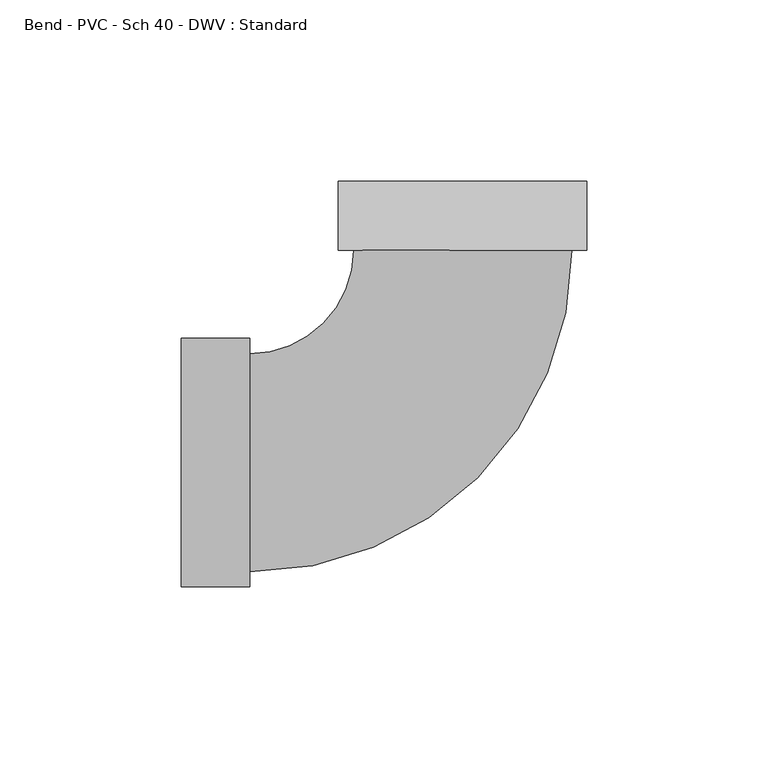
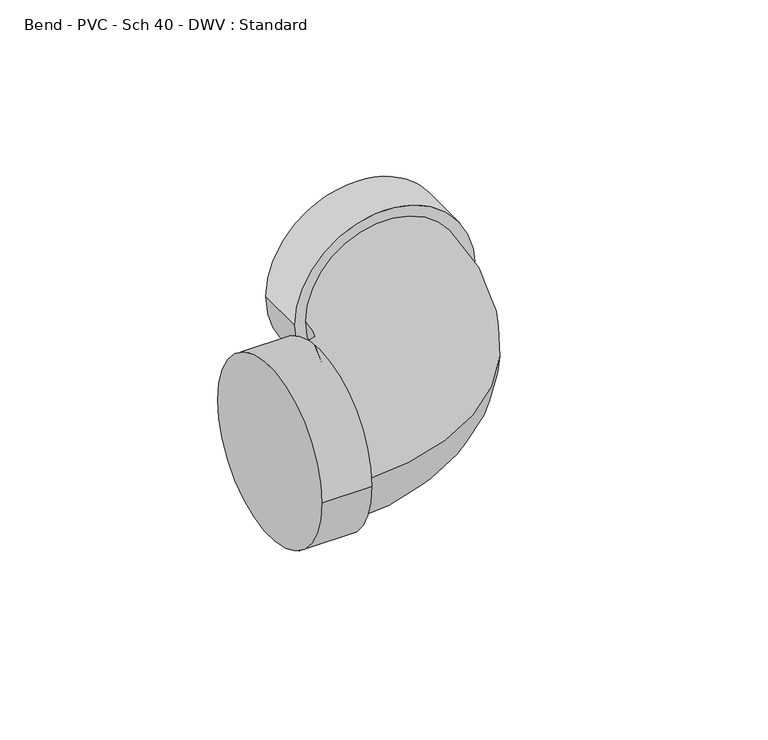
"""IFC4 building model written with IfcOpenShell, lengths in millimetres: pipe fitting geometry, Bend - PVC - Sch 40 - DWV : Standard."""

from ifc_helpers import new_model, si_unit, point, frame, origin, place, context, project, spatial, circle_curve, ellipse_curve, trimmed, source, transform, mapped, element, save
from ifc_brep_helpers import plane_surface, cylinder_surface, revolved_surface, advanced_brep


def bend_pvc_sch_40_dwv_standard_2067a29d(model_context):
    return source(origin(), model_context, "Body", "AdvancedBrep", [
        advanced_brep(
        [(-77.8002, -34.3154, 0.0), (-77.8002, 34.3154, 0.0), (-58.7502, -34.3154, 0.0), (-58.7502, 34.3154, 0.0), (-58.7502, -30.1625, 0.0), (-58.7502, 30.1625, 0.0), (-30.1561257, 58.7534721, 0.0), (30.1688739, 58.7469272, 0.0), (34.3217739, 58.7464766, 0.0), (-34.3090257, 58.7539227, 0.0), (34.3238407, 77.7964765, 0.0), (-34.3069589, 77.8039226, 0.0)],
        [
            (0, 1, circle_curve(frame((-77.8002, 0.0, 0.0), z_axis=(-1.0, 0.0, 0.0), x_axis=(0.0, 1.0, 0.0)), 34.3154)),
            (1, 0, circle_curve(frame((-77.8002, 0.0, 0.0), z_axis=(-1.0, 0.0, 0.0), x_axis=(0.0, 1.0, 0.0)), 34.3154)),
            (2, 3, circle_curve(frame((-58.7502, 0.0, 0.0), z_axis=(1.0, 0.0, 0.0), x_axis=(0.0, 1.0, 0.0)), 34.3154)),
            (3, 2, circle_curve(frame((-58.7502, 0.0, 0.0), z_axis=(1.0, 0.0, 0.0), x_axis=(0.0, 1.0, 0.0)), 34.3154)),
            (4, 5, circle_curve(frame((-58.7502, 0.0, 0.0), z_axis=(-1.0, 0.0, 0.0), x_axis=(0.0, 1.0, 0.0)), 30.1625)),
            (5, 4, circle_curve(frame((-58.7502, 0.0, 0.0), z_axis=(-1.0, 0.0, 0.0), x_axis=(0.0, 1.0, 0.0)), 30.1625)),
            (0, 2),
            (3, 1),
            (6, 5, circle_curve(frame((-58.7502, 58.7565745, 0.0), z_axis=(0.0, 0.0, -1.0), x_axis=(0.0, -1.0, 0.0)), 28.5940745)),
            (4, 7, circle_curve(frame((-58.7502, 58.7565745, 0.0), z_axis=(0.0, 0.0, 1.0), x_axis=(0.0, -1.0, 0.0)), 88.9190745)),
            (7, 6, circle_curve(frame((0.0063741, 58.7501997, 0.0), z_axis=(-0.00010849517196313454, -0.9999999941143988, 0.0), x_axis=(-0.9999999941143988, 0.00010849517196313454, 0.0)), 30.1625)),
            (6, 7, circle_curve(frame((0.0063741, 58.7501997, 0.0), z_axis=(-0.00010849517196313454, -0.9999999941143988, 0.0), x_axis=(-0.9999999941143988, 0.00010849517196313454, 0.0)), 30.1625)),
            (8, 9, circle_curve(frame((0.0063741, 58.7501997, 0.0), z_axis=(-0.00010849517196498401, -0.9999999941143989, 0.0), x_axis=(-0.9999999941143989, 0.00010849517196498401, 0.0)), 34.3154)),
            (9, 8, circle_curve(frame((0.0063741, 58.7501997, 0.0), z_axis=(-0.00010849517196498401, -0.9999999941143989, 0.0), x_axis=(-0.9999999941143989, 0.00010849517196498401, 0.0)), 34.3154)),
            (10, 11, circle_curve(frame((0.0084409, 77.8001995, 0.0), z_axis=(0.00010849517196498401, 0.9999999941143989, 0.0), x_axis=(-0.9999999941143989, 0.00010849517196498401, 0.0)), 34.3154)),
            (11, 10, circle_curve(frame((0.0084409, 77.8001995, 0.0), z_axis=(0.00010849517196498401, 0.9999999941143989, 0.0), x_axis=(-0.9999999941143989, 0.00010849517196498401, 0.0)), 34.3154)),
            (8, 10),
            (11, 9),
        ],
        [
            plane_surface(frame((-77.8002, 0.0, 0.0), z_axis=(-1.0, 0.0, 0.0), x_axis=(0.0, 0.0, 1.0))),
            plane_surface(frame((-58.7502, 0.0, 0.0), z_axis=(1.0, 0.0, 0.0), x_axis=(0.0, 0.0, 1.0))),
            cylinder_surface(frame((-77.8002, 0.0, 0.0), z_axis=(-1.0, 0.0, 0.0), x_axis=(0.0, 1.0, 0.0)), 34.3154),
            revolved_surface(trimmed(ellipse_curve(frame((-58.7502, 0.0, 0.0), z_axis=(-1.0, 0.0, 0.0), x_axis=(0.0, 1.0, 0.0)), 30.1625, 30.1625), [point((-58.7502, -30.1625, 0.0))], [point((-58.7502, 30.1625, 0.0))], True, "CARTESIAN"), (-58.7502, 58.7565745, 0.0), (0.0, 0.0, 1.0)),
            revolved_surface(trimmed(ellipse_curve(frame((-58.7502, 0.0, 0.0), z_axis=(-1.0, 0.0, 0.0), x_axis=(0.0, 1.0, 0.0)), 30.1625, 30.1625), [point((-58.7502, 30.1625, 0.0))], [point((-58.7502, -30.1625, 0.0))], True, "CARTESIAN"), (-58.7502, 58.7565745, 0.0), (0.0, 0.0, 1.0)),
            plane_surface(frame((0.0063741, 58.7501997, 0.0), z_axis=(-0.00010849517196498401, -0.9999999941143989, 0.0), x_axis=(0.0, 0.0, 1.0))),
            plane_surface(frame((0.0084409, 77.8001995, 0.0), z_axis=(0.00010849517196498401, 0.9999999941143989, 0.0), x_axis=(0.0, 0.0, 1.0))),
            cylinder_surface(frame((0.0063741, 58.7501997, 0.0), z_axis=(-0.00010849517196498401, -0.9999999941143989, 0.0), x_axis=(-0.9999999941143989, 0.00010849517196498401, 0.0)), 34.3154),
        ],
        [
            (0, [[1, 2]]),
            (1, [[3, 4], [5, 6]]),
            (2, [[-1, 7, -4, 8]]),
            (2, [[-2, -8, -3, -7]]),
            (3, [[9, -5, 10, 11]]),
            (4, [[-9, 12, -10, -6]]),
            (5, [[13, 14], [-11, -12]]),
            (6, [[15, 16]]),
            (7, [[-13, 17, -16, 18]]),
            (7, [[-14, -18, -15, -17]]),
        ],
    ),
    ])


if __name__ == "__main__":
    model = new_model("IFC4")
    model_context = context("Model", 3, world=origin())
    ifc_project = project(units=[si_unit("LENGTHUNIT", "METRE", prefix="MILLI")], contexts=[model_context])
    site = spatial("IfcSite", under=ifc_project)
    building = spatial("IfcBuilding", under=site)
    placement = place(None, origin())
    bend_pvc_sch_40_dwv_standard_shape = bend_pvc_sch_40_dwv_standard_2067a29d(model_context)
    element("IfcPipeFitting", 1, ObjectType="Bend - PVC - Sch 40 - DWV : Standard", at=placement, inside=building, context=model_context, shape_type="MappedRepresentation", body=[
        mapped(bend_pvc_sch_40_dwv_standard_shape, transform((0.0, 0.0, 0.0), x_axis=(1.0, 0.0, 0.0), y_axis=(0.0, 1.0, 0.0), z_axis=(0.0, 0.0, 1.0))),
    ])
    save(model, "model.ifc")
